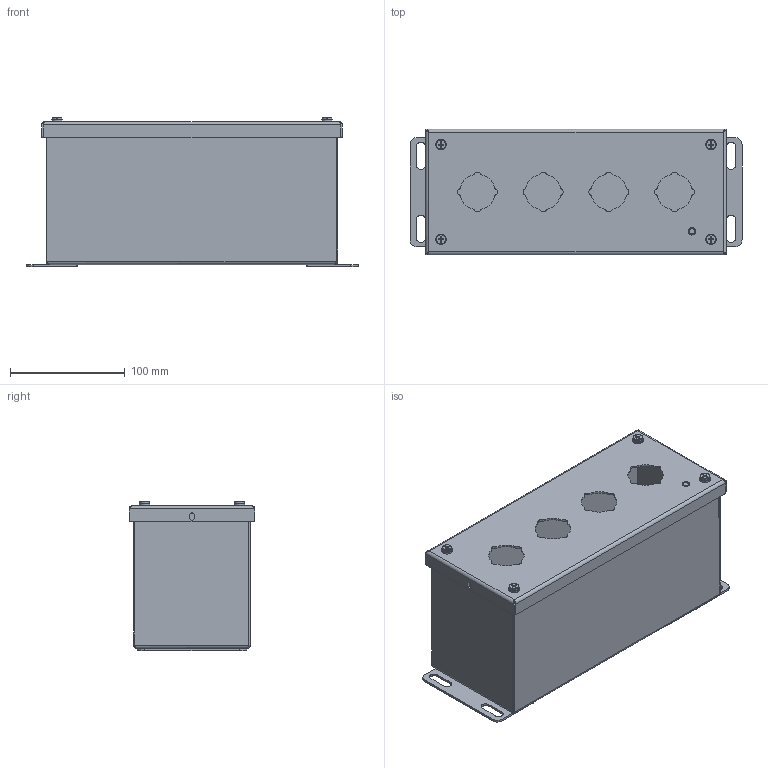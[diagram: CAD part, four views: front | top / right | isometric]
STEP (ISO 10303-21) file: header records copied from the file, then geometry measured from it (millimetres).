
FILE_DESCRIPTION((''),'2;1');
FILE_NAME('MODEL-335_ASM','2021-06-14T11:13:49',('chads'),('SAGINAW CONTROL & ENGINEERING'),'CREO PARAMETRIC BY PTC INC, 2017260','CREO PARAMETRIC BY PTC INC, 2017260','');
FILE_SCHEMA(('AUTOMOTIVE_DESIGN { 1 0 10303 214 1 1 1 1 }'));
Length unit declared in the file: inch
Products named in the file (10): MODEL-335-BDY; MODEL-335-DR; 100063; 102146; 101966; 100009; 100983; 102534; MODEL-335-GSKT; MODEL-335_ASM
Assembly tree (16 placements, depth 2):
  MODEL-335_ASM
    MODEL-335-BDY
    MODEL-335-DR
    100063
    102146  x2
    101966
    100009
    100983  x4
    102534  x4
    MODEL-335-GSKT
Bounding box: 288.93 x 109.54 x 130.14 mm (x, y, z)
Volume: 254576.3 mm3; surface area: 334977.6 mm2
Topology: 19 solids, 19 shells, 774 faces, 1935 edges, 1146 vertices
Faces by surface type: cylinder 288, plane 278, bspline 100, torus 80, cone 28
Entity records: 23441 total; most frequent: CARTESIAN_POINT 5913, DIRECTION 2419, ORIENTED_EDGE 2318, EDGE_CURVE 1159, PRESENTATION_STYLE_ASSIGNMENT 1071, STYLED_ITEM 1071, CURVE_STYLE 995, AXIS2_PLACEMENT_3D 889
